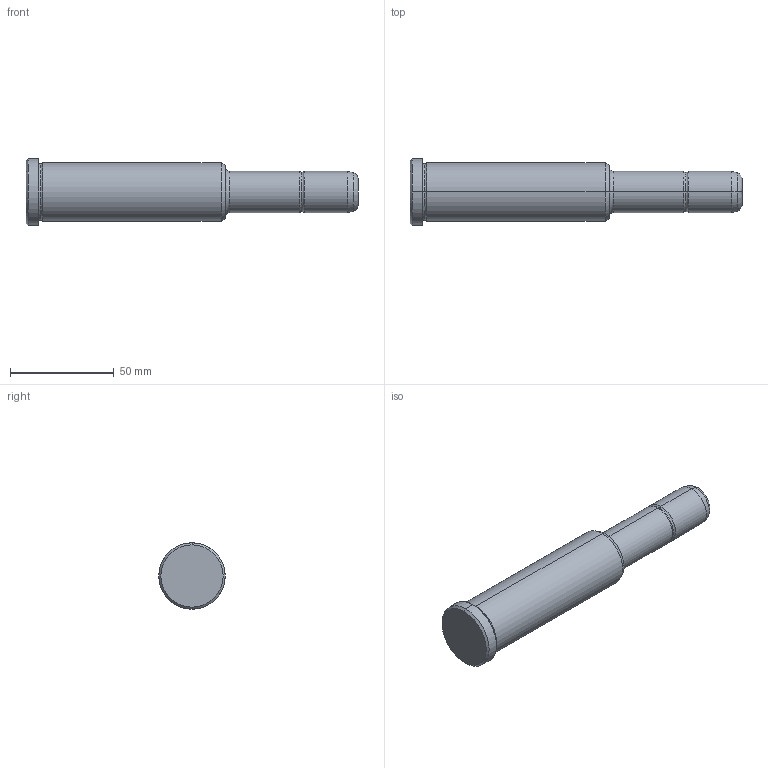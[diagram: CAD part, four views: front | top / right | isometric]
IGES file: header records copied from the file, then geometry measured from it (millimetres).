
Start section: START RECORD GO HERE.
Global section: file name: 351-20X96X160.igs; native system: DASSAULT SYSTEMES CATIA V5 R20 - www.3ds.com; preprocessor: CATIA Version 5 Release 20 ; author: Utente; organization: NB04-ASUS; date: 20210827.150320; units: millimetre
Bounding box: 160 x 32 x 32 mm (x, y, z)
Surface area: 13868.6 mm2 (no closed solid volume)
Topology: 0 solids, 0 shells, 30 faces, 172 edges, 172 vertices
Faces by surface type: revolution 26, plane 4
